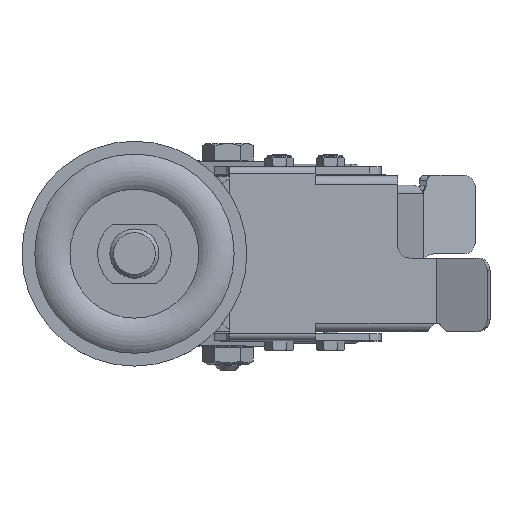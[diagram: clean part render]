
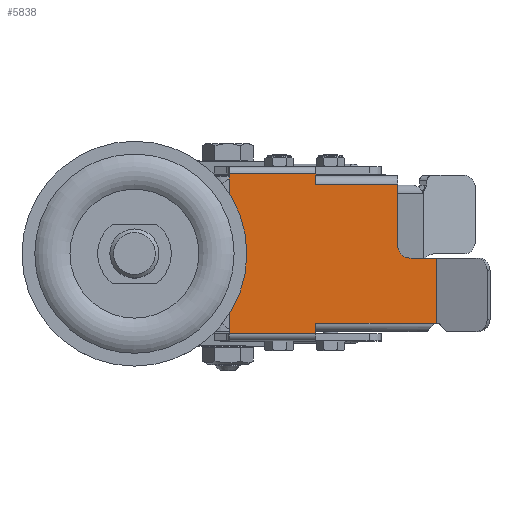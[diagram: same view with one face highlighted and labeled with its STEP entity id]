
A CAD part, top view. The second image highlights one B-rep face of the part: STEP entity #5838.
In plain terms, the highlighted planar face has unit normal (0.007, 0, 1).
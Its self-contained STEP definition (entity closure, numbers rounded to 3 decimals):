
#1083=FACE_OUTER_BOUND('',#8608,.T.);
#3141=LINE('',#34268,#4352);
#3145=LINE('',#34278,#4356);
#3384=LINE('',#41257,#4597);
#3385=LINE('',#41259,#4598);
#3386=LINE('',#41261,#4599);
#3387=LINE('',#41263,#4600);
#3388=LINE('',#41267,#4601);
#3389=LINE('',#41269,#4602);
#3390=LINE('',#41270,#4603);
#3391=LINE('',#41272,#4604);
#3392=LINE('',#41274,#4605);
#4352=VECTOR('',#27200,1.);
#4356=VECTOR('',#27208,1.);
#4597=VECTOR('',#28223,1.);
#4598=VECTOR('',#28224,1.);
#4599=VECTOR('',#28225,1.);
#4600=VECTOR('',#28226,1.);
#4601=VECTOR('',#28229,1.);
#4602=VECTOR('',#28230,1.);
#4603=VECTOR('',#28231,1.);
#4604=VECTOR('',#28232,1.);
#4605=VECTOR('',#28233,1.);
#5838=ADVANCED_FACE('',(#1083),#7176,.T.);
#7176=PLANE('',#24884);
#8608=EDGE_LOOP('',(#11276,#11277,#11278,#11279,#11280,#11281,#11282,#11283,
#11284,#11285,#11286,#11287));
#11276=ORIENTED_EDGE('',*,*,#19751,.T.);
#11277=ORIENTED_EDGE('',*,*,#20311,.T.);
#11278=ORIENTED_EDGE('',*,*,#20312,.T.);
#11279=ORIENTED_EDGE('',*,*,#20313,.T.);
#11280=ORIENTED_EDGE('',*,*,#20314,.T.);
#11281=ORIENTED_EDGE('',*,*,#20315,.T.);
#11282=ORIENTED_EDGE('',*,*,#20316,.F.);
#11283=ORIENTED_EDGE('',*,*,#20317,.T.);
#11284=ORIENTED_EDGE('',*,*,#19756,.T.);
#11285=ORIENTED_EDGE('',*,*,#20318,.T.);
#11286=ORIENTED_EDGE('',*,*,#20319,.F.);
#11287=ORIENTED_EDGE('',*,*,#20320,.T.);
#17414=VERTEX_POINT('',#34267);
#17415=VERTEX_POINT('',#34269);
#17419=VERTEX_POINT('',#34279);
#17420=VERTEX_POINT('',#34280);
#17814=VERTEX_POINT('',#41258);
#17815=VERTEX_POINT('',#41260);
#17816=VERTEX_POINT('',#41262);
#17817=VERTEX_POINT('',#41264);
#17818=VERTEX_POINT('',#41266);
#17819=VERTEX_POINT('',#41268);
#17820=VERTEX_POINT('',#41271);
#17821=VERTEX_POINT('',#41273);
#19751=EDGE_CURVE('',#17415,#17414,#3141,.T.);
#19756=EDGE_CURVE('',#17419,#17420,#3145,.T.);
#20311=EDGE_CURVE('',#17414,#17814,#3384,.T.);
#20312=EDGE_CURVE('',#17814,#17815,#3385,.T.);
#20313=EDGE_CURVE('',#17815,#17816,#3386,.T.);
#20314=EDGE_CURVE('',#17816,#17817,#3387,.T.);
#20315=EDGE_CURVE('',#17817,#17818,#23385,.T.);
#20316=EDGE_CURVE('',#17819,#17818,#3388,.T.);
#20317=EDGE_CURVE('',#17819,#17419,#3389,.T.);
#20318=EDGE_CURVE('',#17420,#17820,#3390,.T.);
#20319=EDGE_CURVE('',#17821,#17820,#3391,.T.);
#20320=EDGE_CURVE('',#17821,#17415,#3392,.T.);
#23385=CIRCLE('',#24883,5.);
#24883=AXIS2_PLACEMENT_3D('',#41265,#28227,#28228);
#24884=AXIS2_PLACEMENT_3D('',#41275,#28234,#28235);
#27200=DIRECTION('',(0.,1.,0.));
#27208=DIRECTION('',(0.,1.,0.));
#28223=DIRECTION('',(1.,0.,-0.007));
#28224=DIRECTION('',(1.,0.,-0.007));
#28225=DIRECTION('',(0.,1.,0.));
#28226=DIRECTION('',(-1.,0.,0.007));
#28227=DIRECTION('',(-0.007,0.,-1.));
#28228=DIRECTION('',(0.,1.,0.));
#28229=DIRECTION('',(0.,-1.,0.));
#28230=DIRECTION('',(-1.,0.,0.007));
#28231=DIRECTION('',(-1.,0.,0.007));
#28232=DIRECTION('',(0.,1.,0.));
#28233=DIRECTION('',(1.,0.,-0.007));
#28234=DIRECTION('',(0.007,0.,1.));
#28235=DIRECTION('',(1.,0.,-0.007));
#34267=CARTESIAN_POINT('',(73.785,-28.25,-65.596));
#34268=CARTESIAN_POINT('',(73.785,32.5,-65.596));
#34269=CARTESIAN_POINT('',(73.785,-32.5,-65.596));
#34278=CARTESIAN_POINT('',(73.785,32.5,-65.596));
#34279=CARTESIAN_POINT('',(73.785,28.25,-65.596));
#34280=CARTESIAN_POINT('',(73.785,32.5,-65.596));
#41257=CARTESIAN_POINT('',(123.784,-28.25,-65.969));
#41258=CARTESIAN_POINT('',(122.634,-28.25,-65.96));
#41259=CARTESIAN_POINT('',(122.634,-28.25,-65.96));
#41260=CARTESIAN_POINT('',(123.168,-28.25,-65.964));
#41261=CARTESIAN_POINT('',(123.168,-1.75,-65.964));
#41262=CARTESIAN_POINT('',(123.168,-1.75,-65.964));
#41263=CARTESIAN_POINT('',(158.232,-1.75,-66.226));
#41264=CARTESIAN_POINT('',(112.233,-1.75,-65.883));
#41265=CARTESIAN_POINT('',(112.233,3.25,-65.883));
#41266=CARTESIAN_POINT('',(107.233,3.25,-65.846));
#41267=CARTESIAN_POINT('',(107.233,-1.75,-65.846));
#41268=CARTESIAN_POINT('',(107.233,28.25,-65.846));
#41269=CARTESIAN_POINT('',(73.785,28.25,-65.596));
#41270=CARTESIAN_POINT('',(73.785,32.5,-65.596));
#41271=CARTESIAN_POINT('',(38.586,32.5,-65.334));
#41272=CARTESIAN_POINT('',(38.586,32.5,-65.334));
#41273=CARTESIAN_POINT('',(38.586,-32.5,-65.334));
#41274=CARTESIAN_POINT('',(38.586,-32.5,-65.334));
#41275=CARTESIAN_POINT('',(73.785,32.5,-65.596));
